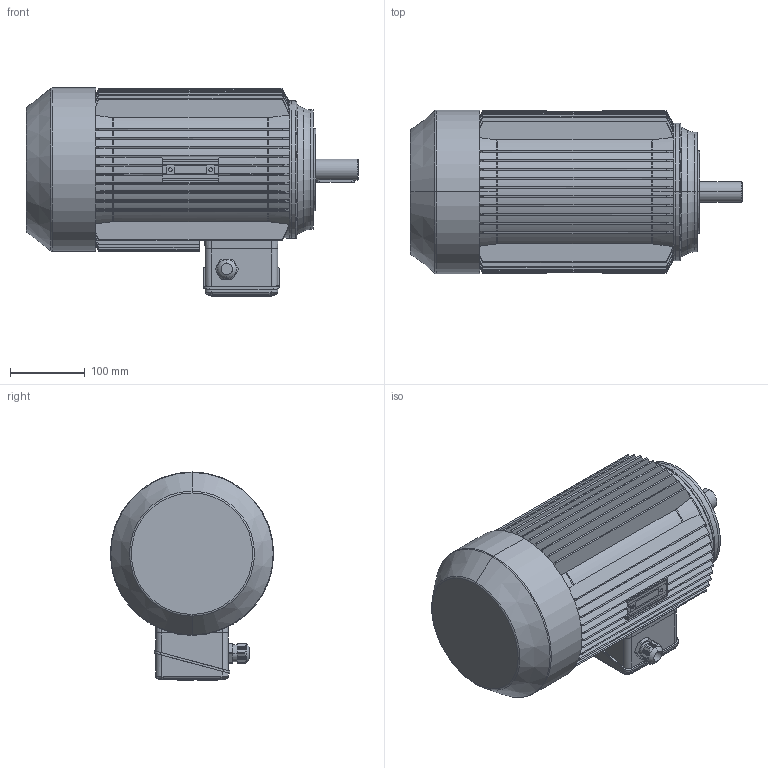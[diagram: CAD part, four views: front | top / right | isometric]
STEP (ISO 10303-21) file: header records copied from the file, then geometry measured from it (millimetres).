
FILE_DESCRIPTION (( 'STEP AP214' ), '1' );
FILE_NAME ('MAP112M6A IM3641 FT130.STEP', '2021-03-05T15:13:09', ( '' ), ( '' ), 'SwSTEP 2.0', 'SolidWorks 2018', '' );
FILE_SCHEMA (( 'AUTOMOTIVE_DESIGN' ));
Length unit declared in the file: millimetre
Products named in the file (1): MAP112M6A IM3641 FT130
Bounding box: 444 x 218.5 x 278.25 mm (x, y, z)
Volume: 11674302.8 mm3; surface area: 738244 mm2
Topology: 3 solids, 8 shells, 1043 faces, 2812 edges, 1831 vertices
Faces by surface type: plane 496, cylinder 209, cone 153, torus 106, bspline 77, sphere 2
Entity records: 39215 total; most frequent: CARTESIAN_POINT 14384, ORIENTED_EDGE 5620, DIRECTION 4542, EDGE_CURVE 2810, VERTEX_POINT 1831, AXIS2_PLACEMENT_3D 1586, LINE 1370, VECTOR 1370
